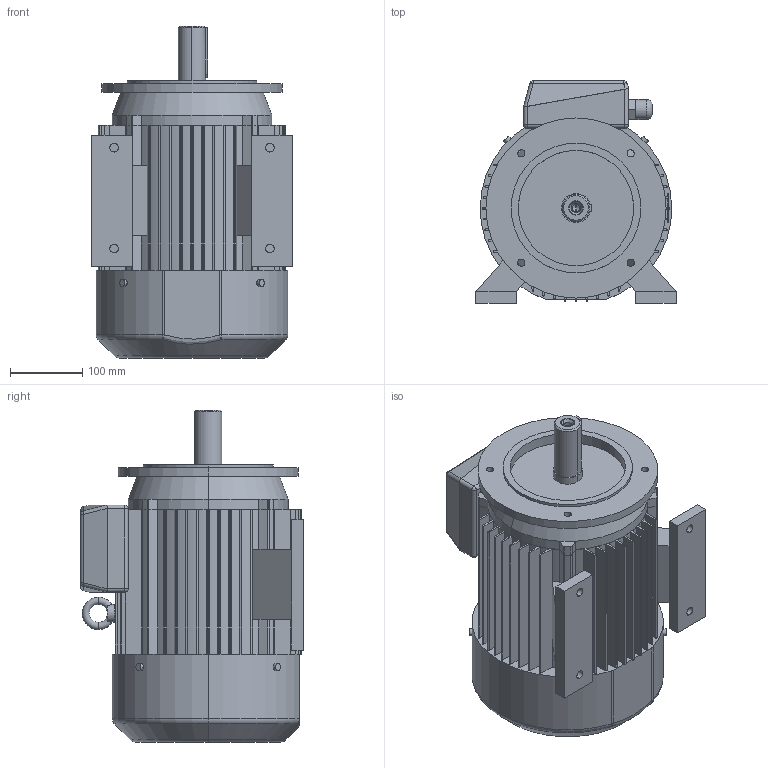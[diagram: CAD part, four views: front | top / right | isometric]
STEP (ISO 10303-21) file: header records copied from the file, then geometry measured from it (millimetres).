
FILE_DESCRIPTION (( 'STEP AP203' ), '1' );
FILE_NAME ('SLg 132S-B34-C1.STEP', '2010-04-14T10:56:06', ( 'INDUKTA' ), ( 'CANTONI MOTOR' ), 'SwSTEP 2.0', 'SolidWorks 2003064', '' );
FILE_SCHEMA (( 'CONFIG_CONTROL_DESIGN' ));
Length unit declared in the file: millimetre
Products named in the file (1): SLg 132S-B34-C1
Bounding box: 278 x 309 x 461 mm (x, y, z)
Volume: 18845068.3 mm3; surface area: 1027573.9 mm2
Topology: 14 solids, 14 shells, 529 faces, 1404 edges, 899 vertices
Faces by surface type: plane 253, cylinder 196, bspline 43, cone 14, torus 13, sphere 10
Entity records: 20034 total; most frequent: CARTESIAN_POINT 6873, ORIENTED_EDGE 2784, DIRECTION 2670, EDGE_CURVE 1392, AXIS2_PLACEMENT_3D 912, VERTEX_POINT 899, LINE 846, VECTOR 846
